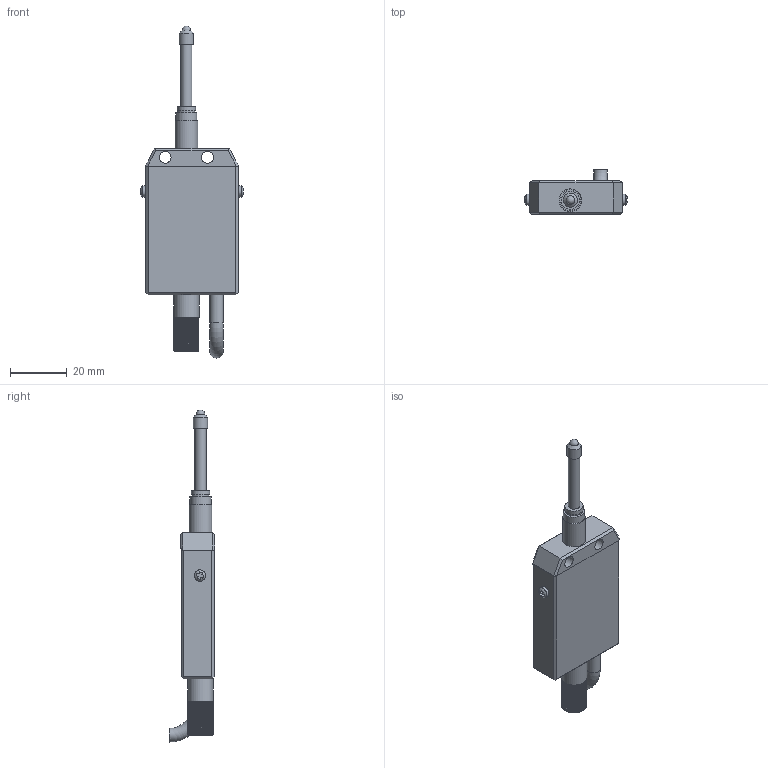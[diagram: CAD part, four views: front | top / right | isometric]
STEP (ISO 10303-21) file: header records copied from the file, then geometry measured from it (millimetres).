
FILE_DESCRIPTION( ( 'STEP AP203' ), '1' );
FILE_NAME( 'N:/Engineering/CAD_Solid/Magnescale/DT- Serie/DT512N/Kunden 3D/DT521N vereinfacht.stp', '2010-08-17T14:13:23', ( ' ' ), ( ' ' ), 'XStep 1.0', ' ', ' ' );
FILE_SCHEMA( ( 'CONFIG_CONTROL_DESIGN) ( )' ) );
Length unit declared in the file: metre
Products named in the file (7): 1; 2; 3; 4; 5; 6; 7
Bounding box: 36.52 x 16 x 117.49 mm (x, y, z)
Surface area: 7419.7 mm2 (no closed solid volume)
Topology: 0 solids, 220 shells, 220 faces, 1421 edges, 1403 vertices
Faces by surface type: plane 203, cylinder 12, sphere 3, cone 1, torus 1
Full cylindrical faces by diameter (mm): 4 x3, 4.2 x2, 4.8 x1, 5 x1, 6 x1, 6.5 x1, 7.5 x1, 8 x1, 9 x1
Entity records: 13627 total; most frequent: CARTESIAN_POINT 3433, DIRECTION 1884, ORIENTED_EDGE 1393, EDGE_CURVE 1393, VERTEX_POINT 1393, LINE 1076, VECTOR 1076, AXIS2_PLACEMENT_3D 404
